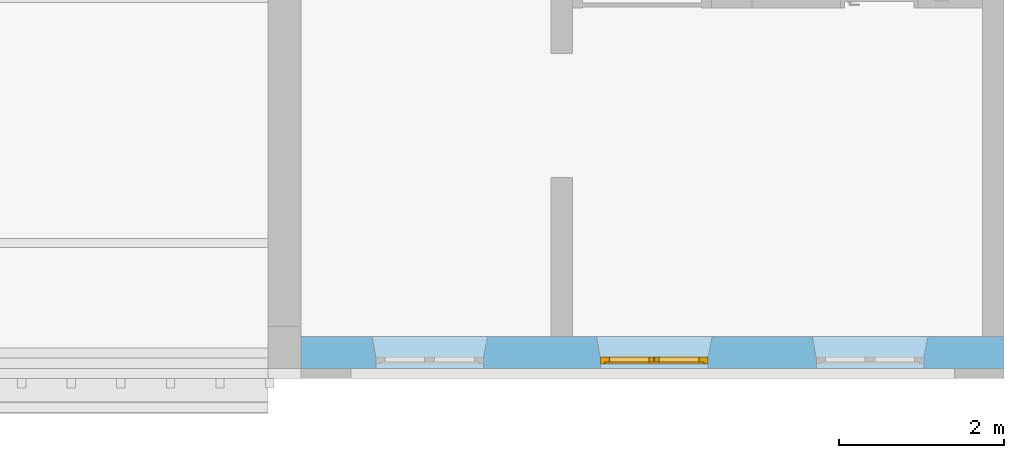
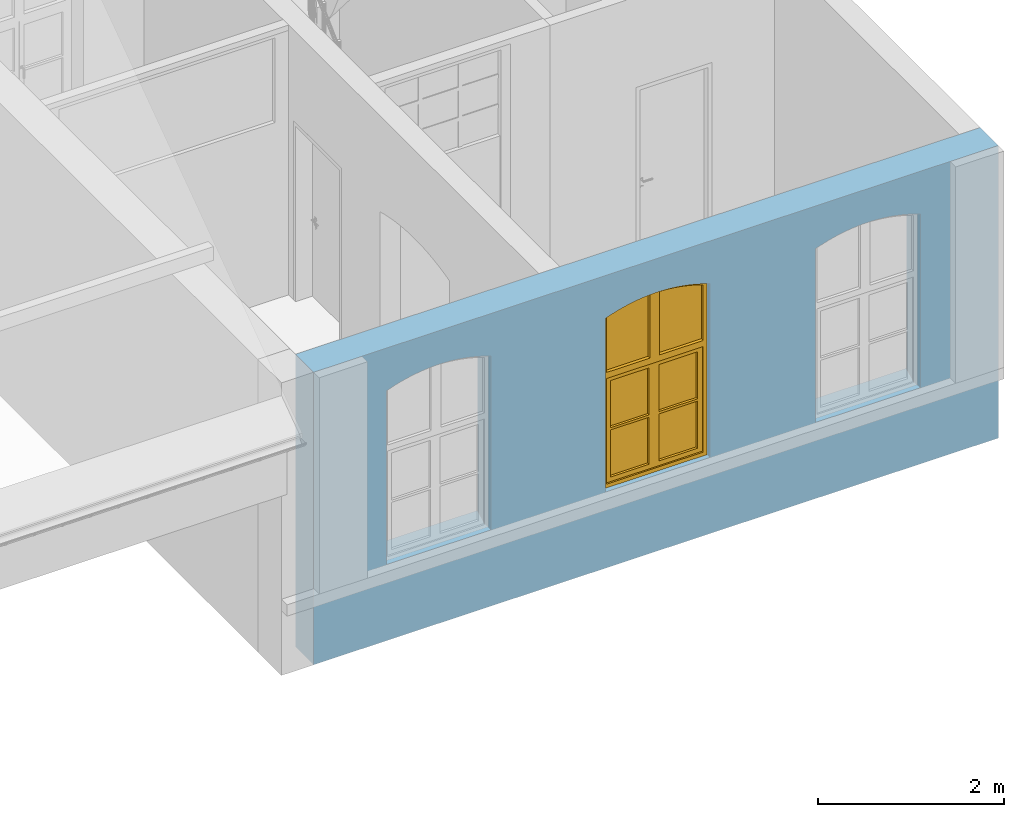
"""IFC4 building model written with IfcOpenShell, lengths in metres."""

import ifcopenshell
import ifcopenshell.guid

model = None  # the IFC model being written
_history = None  # IfcOwnerHistory: only IFC2X3 demands one
_inside = {}  # id of a spatial element -> (the spatial element, [elements in it])
_under = {}  # id of a project, library or spatial element -> (it, [spatial elements below it])
_declared = {}  # id of a project -> (the project, [libraries it declares])
_typed = {}  # id of a type object -> (the type object, [elements of that type])
_made_of = {}  # id of a material, layer set ... -> (it, [elements and type objects made of it])


def new_model(schema):
    """Start an empty IFC model of exactly this schema.

    Asked for "IFC4X3", IfcOpenShell would pick the latest addendum, in which some entities
    have other attributes; the version numbers below select the first issue.
    IFC2X3 requires an IfcOwnerHistory on every rooted entity: one is made here for all.
    """
    global model, _history
    if schema == "IFC4X3":
        model = ifcopenshell.file(schema_version=(4, 3, 0, 0))
    else:
        model = ifcopenshell.file(schema=schema)
    _inside.clear()
    _under.clear()
    _declared.clear()
    _typed.clear()
    _made_of.clear()
    _history = None
    if model.schema == "IFC2X3":
        org = make("IfcOrganization", Name="unknown")
        user = make(
            "IfcPersonAndOrganization",
            ThePerson=make("IfcPerson", FamilyName="unknown"),
            TheOrganization=org,
        )
        app = make(
            "IfcApplication",
            ApplicationDeveloper=org,
            Version="unknown",
            ApplicationFullName="unknown",
            ApplicationIdentifier="unknown",
        )
        _history = make(
            "IfcOwnerHistory",
            OwningUser=user,
            OwningApplication=app,
            ChangeAction="ADDED",
            CreationDate=0,
        )
    return model


def make(cls, **values):
    """One entity of the class cls with the attributes given. An attribute that is None is left unset."""
    return model.create_entity(
        cls, **{name: value for name, value in values.items() if value is not None}
    )


def entity(cls, *values):
    """Any entity or typed value of the class cls, its attributes in the order of the schema. None: left unset."""
    e = model.create_entity(cls)
    for i, value in enumerate(values):
        if value is not None:
            e[i] = value
    return e


def rooted(cls, **values):
    """An entity with a GlobalId (a new one), such as an element, a storey or a relation."""
    return make(cls, GlobalId=ifcopenshell.guid.new(), OwnerHistory=_history, **values)


def si_unit(unit_type, name, prefix=None):
    """IfcSIUnit, for example si_unit("LENGTHUNIT", "METRE", prefix="MILLI")."""
    return make("IfcSIUnit", UnitType=unit_type, Prefix=prefix, Name=name)


def converted_unit(unit_type, name, factor, base, dimensions=None, offset=None):
    """IfcConversionBasedUnit, such as the inch: factor (a typed value) times the base unit."""
    return make(
        "IfcConversionBasedUnit"
        if offset is None
        else "IfcConversionBasedUnitWithOffset",
        ConversionOffset=offset,
        Dimensions=None
        if dimensions is None
        else entity("IfcDimensionalExponents", *dimensions),
        UnitType=unit_type,
        Name=name,
        ConversionFactor=make(
            "IfcMeasureWithUnit", ValueComponent=factor, UnitComponent=base
        ),
    )


def derived_unit(unit_type, elements):
    """IfcDerivedUnit: a product of units, each with its exponent."""
    return make(
        "IfcDerivedUnit",
        Elements=[
            make("IfcDerivedUnitElement", Unit=unit, Exponent=power)
            for unit, power in elements
        ],
        UnitType=unit_type,
    )


def assignment(units):
    """IfcUnitAssignment: the units of a project."""
    return None if units is None else make("IfcUnitAssignment", Units=units)


def point(xyz):
    """IfcCartesianPoint."""
    return None if xyz is None else make("IfcCartesianPoint", Coordinates=xyz)


def direction(xyz):
    """IfcDirection."""
    return None if xyz is None else make("IfcDirection", DirectionRatios=xyz)


def frame(location, z_axis=None, x_axis=None):
    """IfcAxis2Placement3D, a coordinate frame: its origin and axes. An axis left out is left unset."""
    return make(
        "IfcAxis2Placement3D",
        Location=point(location),
        Axis=direction(z_axis),
        RefDirection=direction(x_axis),
    )


def frame_2d(location, x_axis=None):
    """IfcAxis2Placement2D, a coordinate frame in the plane: its origin and x axis."""
    return make(
        "IfcAxis2Placement2D", Location=point(location), RefDirection=direction(x_axis)
    )


def origin():
    """The frame at (0, 0, 0) with its axes left unset."""
    return frame((0.0, 0.0, 0.0))


def origin_with_axes():
    """The frame at (0, 0, 0) with the z axis (0, 0, 1) and the x axis (1, 0, 0) written out."""
    return frame((0.0, 0.0, 0.0), z_axis=(0.0, 0.0, 1.0), x_axis=(1.0, 0.0, 0.0))


def place(relative_to, where):
    """IfcLocalPlacement: puts the frame where relative to a parent placement (None: the world)."""
    return make(
        "IfcLocalPlacement", PlacementRelTo=relative_to, RelativePlacement=where
    )


def context(
    kind, dimensions, precision=None, world=None, true_north=None, identifier=None
):
    """IfcGeometricRepresentationContext, for example the 3D "Model" context."""
    return make(
        "IfcGeometricRepresentationContext",
        ContextIdentifier=identifier,
        ContextType=kind,
        CoordinateSpaceDimension=dimensions,
        Precision=precision,
        WorldCoordinateSystem=world,
        TrueNorth=true_north,
    )


def subcontext(parent, identifier, kind, view, scale=None):
    """IfcGeometricRepresentationSubContext, for example "Body" below "Model"."""
    return make(
        "IfcGeometricRepresentationSubContext",
        ContextIdentifier=identifier,
        ContextType=kind,
        ParentContext=parent,
        TargetScale=scale,
        TargetView=view,
    )


def project(units=None, contexts=None):
    """IfcProject with its units and contexts."""
    return rooted(
        "IfcProject",
        Name="project",
        RepresentationContexts=contexts,
        UnitsInContext=assignment(units),
    )


def spatial(cls, under=None, at=None, **own):
    """A site, building, storey or space (cls), placed at a placement, below another one or the project."""
    s = rooted(cls, ObjectPlacement=at, **own)
    if under is not None:
        _under.setdefault(under.id(), (under, []))[1].append(s)
    return s


def polyline(points):
    """IfcPolyline through the points."""
    return make("IfcPolyline", Points=[point(p) for p in points])


def profile(cls, at=None, kind="AREA", **sizes):
    """A parametric profile (cls). Its sizes go by their IFC names, for example OverallWidth=200.0."""
    return make(cls, ProfileType=kind, Position=at, **sizes)


def rectangle(**sizes):
    """IfcRectangleProfileDef."""
    return profile("IfcRectangleProfileDef", **sizes)


def outline(outer, holes=None, kind="AREA"):
    """IfcArbitraryClosedProfileDef: a profile drawn as a closed curve; with holes, ...WithVoids."""
    if holes is None:
        return make("IfcArbitraryClosedProfileDef", ProfileType=kind, OuterCurve=outer)
    return make(
        "IfcArbitraryProfileDefWithVoids",
        ProfileType=kind,
        OuterCurve=outer,
        InnerCurves=holes,
    )


def extrude(swept, where, along, depth):
    """IfcExtrudedAreaSolid: the profile swept, set in the frame where, extruded along a direction by depth."""
    return make(
        "IfcExtrudedAreaSolid",
        SweptArea=swept,
        Position=where,
        ExtrudedDirection=direction(along),
        Depth=depth,
    )


def faces_of(points, faces, orient=None, outer=None):
    """IfcFace entities. A face is a list of loops; a loop is a list of indices into points, from 0.

    orient and outer hold one flag for each loop. By default every Orientation is true, the
    first loop of a face is its IfcFaceOuterBound and the others are IfcFaceBound.
    """
    made = []
    for i, loops in enumerate(faces):
        bounds = []
        for j, loop in enumerate(loops):
            is_outer = j == 0 if outer is None else outer[i][j]
            bounds.append(
                make(
                    "IfcFaceOuterBound" if is_outer else "IfcFaceBound",
                    Bound=make("IfcPolyLoop", Polygon=[points[k] for k in loop]),
                    Orientation=True if orient is None else orient[i][j],
                )
            )
        made.append(make("IfcFace", Bounds=bounds))
    return made


def closed_shell(faces, orient=None, outer=None):
    """The faces of one IfcClosedShell. faceted_brep and surface_model build it on their shared points."""
    return ("IfcClosedShell", faces, orient, outer)


def open_shell(faces, orient=None, outer=None):
    """The faces of one IfcOpenShell. surface_model builds it on its shared points."""
    return ("IfcOpenShell", faces, orient, outer)


def surface_model(cls, points, shells):
    """IfcFaceBasedSurfaceModel or IfcShellBasedSurfaceModel (cls): surfaces that need not close."""
    shared = [point(p) for p in points]
    made = [make(c, CfsFaces=faces_of(shared, fs, o, b)) for c, fs, o, b in shells]
    if cls == "IfcFaceBasedSurfaceModel":
        return make(cls, FbsmFaces=made)
    return make(cls, SbsmBoundary=made)


def shape(context_of_items, identifier, shape_type, items):
    """IfcShapeRepresentation: the items that make up one representation, for example the "Body"."""
    return make(
        "IfcShapeRepresentation",
        ContextOfItems=context_of_items,
        RepresentationIdentifier=identifier,
        RepresentationType=shape_type,
        Items=items,
    )


def source(mapping_origin, context_of_items, identifier, shape_type, items):
    """IfcRepresentationMap: a shape defined once, which mapped items show again and again."""
    return make(
        "IfcRepresentationMap",
        MappingOrigin=mapping_origin,
        MappedRepresentation=shape(context_of_items, identifier, shape_type, items),
    )


def transform(
    local_origin,
    x_axis=None,
    y_axis=None,
    z_axis=None,
    scale=None,
    scale2=None,
    scale3=None,
    uniform=True,
):
    """IfcCartesianTransformationOperator3D, or its non-uniform kind. x_axis, y_axis, z_axis: its Axis1, 2, 3."""
    if uniform:
        return make(
            "IfcCartesianTransformationOperator3D",
            Axis1=direction(x_axis),
            Axis2=direction(y_axis),
            LocalOrigin=point(local_origin),
            Scale=scale,
            Axis3=direction(z_axis),
        )
    return make(
        "IfcCartesianTransformationOperator3DnonUniform",
        Axis1=direction(x_axis),
        Axis2=direction(y_axis),
        LocalOrigin=point(local_origin),
        Scale=scale,
        Axis3=direction(z_axis),
        Scale2=scale2,
        Scale3=scale3,
    )


def mapped(mapping_source, mapping_target):
    """IfcMappedItem: shows the shape of a source again, moved by a transform."""
    return make(
        "IfcMappedItem", MappingSource=mapping_source, MappingTarget=mapping_target
    )


def material(Name=None, Category=None):
    """IfcMaterial."""
    return make("IfcMaterial", Name=Name, Category=Category)


def layer(
    of_material, thickness, ventilated=None, Name=None, Category=None, Priority=None
):
    """IfcMaterialLayer: one layer of a wall or slab, of a material (None: an air gap)."""
    return make(
        "IfcMaterialLayer",
        Material=of_material,
        LayerThickness=thickness,
        IsVentilated=ventilated,
        Name=Name,
        Category=Category,
        Priority=Priority,
    )


def layer_set(layers, Name=None):
    """IfcMaterialLayerSet."""
    return make("IfcMaterialLayerSet", MaterialLayers=layers, LayerSetName=Name)


def layer_usage(for_layer_set, set_direction, sense, offset, extent=None):
    """IfcMaterialLayerSetUsage: how a layer set lies in its element."""
    return make(
        "IfcMaterialLayerSetUsage",
        ForLayerSet=for_layer_set,
        LayerSetDirection=set_direction,
        DirectionSense=sense,
        OffsetFromReferenceLine=offset,
        ReferenceExtent=extent,
    )


def made_of(thing, what):
    """Note that an element or type object is made of a material, layer set ...; save() writes the relation."""
    if what is not None:
        _made_of.setdefault(what.id(), (what, []))[1].append(thing)
    return thing


def element(
    cls,
    number,
    at=None,
    inside=None,
    cuts=None,
    type_object=None,
    material=None,
    context=None,
    identifier="Body",
    shape_type=None,
    held_by="IfcProductDefinitionShape",
    body=None,
    shapes=None,
    **own,
):
    """One element of the class cls, such as IfcWall. Its Tag is "e" and its number.

    at: its placement. inside: the storey or other place that contains it. cuts: it is an
    opening in that element (IfcRelVoidsElement). A single representation is given by context,
    identifier, shape_type and body (its items); several are given by shapes. held_by: the class
    of the entity that holds the representations. save() writes the other relations.
    """
    e = rooted(cls, Tag="e%d" % number, ObjectPlacement=at, **own)
    if body is not None:
        shapes = [shape(context, identifier, shape_type, body)]
    if shapes is not None:
        e.Representation = make(held_by, Representations=shapes)
    if inside is not None:
        _inside.setdefault(inside.id(), (inside, []))[1].append(e)
    if cuts is not None:
        rooted(
            "IfcRelVoidsElement", RelatingBuildingElement=cuts, RelatedOpeningElement=e
        )
    if type_object is not None:
        _typed.setdefault(type_object.id(), (type_object, []))[1].append(e)
    return made_of(e, material)


def fill(opening, filler):
    """IfcRelFillsElement: the door or window that sits in an opening."""
    return rooted(
        "IfcRelFillsElement",
        RelatingOpeningElement=opening,
        RelatedBuildingElement=filler,
    )


def aggregate(whole, parts):
    """IfcRelAggregates: a whole, such as a stair, and the parts it consists of."""
    return rooted("IfcRelAggregates", RelatingObject=whole, RelatedObjects=parts)


def save(model, path):
    """Write the relations noted so far, then the file.

    IfcRelAggregates (storeys below a building ...), IfcRelContainedInSpatialStructure (elements
    in a storey), IfcRelDefinesByType, IfcRelAssociatesMaterial and IfcRelDeclares: one each for
    every whole, place, type object, material and project.
    """
    for whole, parts in _under.values():
        aggregate(whole, parts)
    for where, things in _inside.values():
        rooted(
            "IfcRelContainedInSpatialStructure",
            RelatedElements=things,
            RelatingStructure=where,
        )
    for kind, things in _typed.values():
        rooted("IfcRelDefinesByType", RelatedObjects=things, RelatingType=kind)
    for what, things in _made_of.values():
        rooted("IfcRelAssociatesMaterial", RelatedObjects=things, RelatingMaterial=what)
    for by, libraries in _declared.values():
        rooted("IfcRelDeclares", RelatingContext=by, RelatedDefinitions=libraries)
    model.write(path)


model = new_model("IFC4")

# Units and contexts
model_context = context("Model", 3, precision=1e-05, world=origin())
body_context = subcontext(model_context, "Body", "Model", "MODEL_VIEW")
ifc_project = project(units=[si_unit("LENGTHUNIT", "METRE"), si_unit("AREAUNIT", "SQUARE_METRE"), si_unit("VOLUMEUNIT", "CUBIC_METRE"), si_unit("MASSUNIT", "GRAM", prefix="KILO"), converted_unit("PLANEANGLEUNIT", "DEGREE", entity("IfcPlaneAngleMeasure", 0.0174532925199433), si_unit("PLANEANGLEUNIT", "RADIAN"), dimensions=[0, 0, 0, 0, 0, 0, 0]), derived_unit("THERMALTRANSMITTANCEUNIT", [(si_unit("POWERUNIT", "WATT"), 1), (si_unit("THERMODYNAMICTEMPERATUREUNIT", "KELVIN"), -1), (si_unit("LENGTHUNIT", "METRE"), -2)]), derived_unit("VOLUMETRICFLOWRATEUNIT", [(si_unit("LENGTHUNIT", "METRE"), 3), (converted_unit("TIMEUNIT", "hour", entity("IfcTimeMeasure", 3600.0), si_unit("TIMEUNIT", "SECOND"), dimensions=[0, 0, 1, 0, 0, 0, 0]), -1), (si_unit("LENGTHUNIT", "METRE"), -1)])], contexts=[model_context])

# Building, storeys
building_placement = place(None, origin())
building = spatial("IfcBuilding", under=ifc_project, at=building_placement, Name="Bestandsgebäude A - Sporthalle / Wohnhaus (TB 100-499)   ANPASSEN !!!", CompositionType="ELEMENT")
storey_1_placement = place(building_placement, frame((0.0, 0.0, 3.87)))
storey_1 = spatial("IfcBuildingStorey", under=building, at=storey_1_placement, Name="Geb. A 1. Obergeschoss (TB 250-299)", CompositionType="ELEMENT", Elevation=3.87)
storey_2_placement = place(storey_1_placement, frame((0.0, 0.0, 3.87)))
storey_2 = spatial("IfcBuildingStorey", under=storey_1, at=storey_2_placement, Name="Architektur (TB 250-259)", CompositionType="PARTIAL")

# Wall, openings, window
ifc_material = material(Name="concrete")
ifc_layer = layer(ifc_material, 0.39)
ifc_layer_set = layer_set([ifc_layer])
ifc_layer_usage = layer_usage(ifc_layer_set, "AXIS2", "POSITIVE", 0.0)
wall_placement = place(storey_2_placement, frame((-8.5, 0.0, -4.27), z_axis=(0.0, 0.0, 1.0), x_axis=(1.0, -3.67027395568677e-16, 0.0)))
wall = element("IfcWall", 1, at=wall_placement, inside=storey_2, material=ifc_layer_usage, Name="reinforced - bearing", PredefinedType="USERDEFINED", context=body_context, shape_type="SweptSolid", body=[
    extrude(rectangle(XDim=8.5, YDim=0.39, at=frame_2d((4.25, 0.195), x_axis=(1.0, 0.0))), origin_with_axes(), (0.0, 0.0, 1.0), 3.84),
])
opening_1_placement = place(wall_placement, frame((7.58213541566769, 0.39, 1.0), z_axis=(0.0, 0.0, 1.0), x_axis=(-1.0, 0.0, 0.0)))
element("IfcOpeningElement", 2, at=opening_1_placement, cuts=wall, Name="Wall Niche", ObjectType="Opening", context=body_context, shape_type="SweptSolid", body=[
    extrude(outline(polyline([(0.0, 0.0), (1.4, 0.0), (1.3549652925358, 0.25), (0.0521354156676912, 0.25), (0.0, 0.0)])), origin_with_axes(), (0.0, 0.0, 1.0), 2.4),
])
opening_2_placement = place(wall_placement, frame((4.97156563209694, 0.39, 1.0), z_axis=(0.0, 0.0, 1.0), x_axis=(-1.0, 0.0, 0.0)))
element("IfcOpeningElement", 3, at=opening_2_placement, cuts=wall, Name="Wall Niche", ObjectType="Opening", context=body_context, shape_type="SweptSolid", body=[
    extrude(outline(polyline([(0.0, 0.0), (1.4, 0.0), (1.3549652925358, 0.25), (0.0515656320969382, 0.25), (0.0, 0.0)])), origin_with_axes(), (0.0, 0.0, 1.0), 2.4),
])
opening_3_placement = place(wall_placement, frame((2.25788092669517, 0.39, 1.0), z_axis=(0.0, 0.0, 1.0), x_axis=(-1.0, 0.0, 0.0)))
element("IfcOpeningElement", 4, at=opening_3_placement, cuts=wall, Name="Wall Niche", ObjectType="Opening", context=body_context, shape_type="SweptSolid", body=[
    extrude(outline(polyline([(0.0, 0.0), (1.4, 0.0), (1.35423986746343, 0.25), (0.0542398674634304, 0.25), (0.0, 0.0)])), origin_with_axes(), (0.0, 0.0, 1.0), 2.4),
])
opening_4_placement = place(wall_placement, frame((0.903641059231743, 0.0, 1.0), z_axis=(-2.91504712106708e-16, 1.0, 0.0), x_axis=(0.0, 0.0, 1.0)))
element("IfcOpeningElement", 5, at=opening_4_placement, cuts=wall, Name="Window opening", PredefinedType="OPENING", context=body_context, shape_type="SweptSolid", body=[
    extrude(outline(polyline([(2.28, 1.3), (2.29531656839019, 1.25842115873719), (2.30961661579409, 1.21648184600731), (2.3228916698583, 1.17420690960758), (2.33513386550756, 1.1316213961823), (2.34633594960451, 1.08875053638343), (2.35649128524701, 1.04561972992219), (2.36559385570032, 1.00225453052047), (2.37363826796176, 0.958680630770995), (2.38061975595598, 0.914923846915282), (2.38653418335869, 0.871010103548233), (2.39137804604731, 0.826965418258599), (2.39514847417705, 0.782815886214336), (2.39784323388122, 0.738587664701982), (2.39946072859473, 0.694306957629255), (2.4, 0.650000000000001), (2.39946072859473, 0.605693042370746), (2.39784323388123, 0.561412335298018), (2.39514847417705, 0.517184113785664), (2.39137804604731, 0.4730345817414), (2.38653418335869, 0.428989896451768), (2.38061975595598, 0.385076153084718), (2.37363826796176, 0.341319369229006), (2.36559385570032, 0.297745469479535), (2.35649128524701, 0.254380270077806), (2.3463359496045, 0.211249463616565), (2.33513386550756, 0.1683786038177), (2.3228916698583, 0.125793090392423), (2.30961661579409, 0.0835181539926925), (2.29531656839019, 0.0415788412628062), (2.28, 0.0), (0.0, 0.0), (0.0, 1.3), (2.28, 1.3)])), origin_with_axes(), (0.0, 0.0, 1.0), 0.39),
])
opening_5_placement = place(wall_placement, frame((3.62, 0.0, 1.0), z_axis=(0.0, 1.0, 0.0), x_axis=(0.0, 0.0, 1.0)))
opening_5 = element("IfcOpeningElement", 6, at=opening_5_placement, cuts=wall, Name="Window opening", PredefinedType="OPENING", context=body_context, shape_type="SweptSolid", body=[
    extrude(outline(polyline([(2.28, 1.3), (2.29531656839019, 1.25842115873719), (2.30961661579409, 1.21648184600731), (2.3228916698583, 1.17420690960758), (2.33513386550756, 1.1316213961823), (2.3463359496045, 1.08875053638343), (2.35649128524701, 1.04561972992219), (2.36559385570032, 1.00225453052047), (2.37363826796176, 0.958680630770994), (2.38061975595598, 0.914923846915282), (2.38653418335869, 0.871010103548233), (2.39137804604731, 0.826965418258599), (2.39514847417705, 0.782815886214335), (2.39784323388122, 0.738587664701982), (2.39946072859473, 0.694306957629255), (2.4, 0.65), (2.39946072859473, 0.605693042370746), (2.39784323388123, 0.561412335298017), (2.39514847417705, 0.517184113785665), (2.39137804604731, 0.4730345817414), (2.38653418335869, 0.428989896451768), (2.38061975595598, 0.385076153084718), (2.37363826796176, 0.341319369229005), (2.36559385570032, 0.297745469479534), (2.35649128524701, 0.254380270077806), (2.3463359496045, 0.211249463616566), (2.33513386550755, 0.1683786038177), (2.3228916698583, 0.125793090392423), (2.30961661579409, 0.0835181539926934), (2.29531656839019, 0.0415788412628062), (2.28, 0.0), (0.0, 0.0), (0.0, 1.3), (2.28, 1.3)])), origin_with_axes(), (0.0, 0.0, 1.0), 0.39),
])
opening_6_placement = place(wall_placement, frame((6.23, 0.0, 1.0), z_axis=(0.0, 1.0, 0.0), x_axis=(0.0, 0.0, 1.0)))
element("IfcOpeningElement", 7, at=opening_6_placement, cuts=wall, Name="Window opening", PredefinedType="OPENING", context=body_context, shape_type="SweptSolid", body=[
    extrude(outline(polyline([(2.28, 1.3), (2.29531656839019, 1.25842115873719), (2.30961661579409, 1.21648184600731), (2.3228916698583, 1.17420690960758), (2.33513386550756, 1.1316213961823), (2.3463359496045, 1.08875053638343), (2.35649128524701, 1.04561972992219), (2.36559385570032, 1.00225453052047), (2.37363826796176, 0.958680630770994), (2.38061975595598, 0.914923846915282), (2.38653418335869, 0.871010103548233), (2.39137804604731, 0.826965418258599), (2.39514847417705, 0.782815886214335), (2.39784323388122, 0.738587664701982), (2.39946072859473, 0.694306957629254), (2.4, 0.65), (2.39946072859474, 0.605693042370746), (2.39784323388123, 0.561412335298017), (2.39514847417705, 0.517184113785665), (2.39137804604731, 0.4730345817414), (2.38653418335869, 0.428989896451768), (2.38061975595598, 0.385076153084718), (2.37363826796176, 0.341319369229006), (2.36559385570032, 0.297745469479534), (2.35649128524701, 0.254380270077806), (2.3463359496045, 0.211249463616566), (2.33513386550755, 0.168378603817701), (2.3228916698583, 0.125793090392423), (2.30961661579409, 0.083518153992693), (2.29531656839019, 0.0415788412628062), (2.28, 0.0), (0.0, 0.0), (0.0, 1.3), (2.28, 1.3)])), origin_with_axes(), (0.0, 0.0, 1.0), 0.39),
])
shared_shape = source(origin_with_axes(), body_context, "Body", "SurfaceModel", [
    surface_model("IfcShellBasedSurfaceModel", [(1.258421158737, 0.0, 2.29531656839), (1.3, 0.0, 2.28), (1.3, 0.0, 0.0), (0.0, 0.0, 0.0), (0.0, 0.0, 2.28), (0.041578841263, 0.0, 2.29531656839), (0.0835181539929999, 0.0, 2.309616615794), (0.125793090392, 0.0, 2.322891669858), (0.168378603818, 0.0, 2.335133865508), (0.211249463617, 0.0, 2.346335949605), (0.254380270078, 0.0, 2.356491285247), (0.29774546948, 0.0, 2.3655938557), (0.341319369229, 0.0, 2.373638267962), (0.385076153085, 0.0, 2.380619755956), (0.428989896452, 0.0, 2.386534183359), (0.473034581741, 0.0, 2.391378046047), (0.517184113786, 0.0, 2.395148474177), (0.561412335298, 0.0, 2.397843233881), (0.605693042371, 0.0, 2.399460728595), (0.65, 0.0, 2.4), (0.694306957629, 0.0, 2.399460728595), (0.738587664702, 0.0, 2.397843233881), (0.782815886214, 0.0, 2.395148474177), (0.826965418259, 0.0, 2.391378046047), (0.871010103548, 0.0, 2.386534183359), (0.914923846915, 0.0, 2.380619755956), (0.958680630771, 0.0, 2.373638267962), (1.00225453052, 0.0, 2.3655938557), (1.045619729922, 0.0, 2.356491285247), (1.088750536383, 0.0, 2.346335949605), (1.131621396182, 0.0, 2.335133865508), (1.174206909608, 0.0, 2.322891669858), (1.216481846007, 0.0, 2.309616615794), (1.25, 0.0, 2.2451341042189), (1.2417088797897, 0.0, 2.2481883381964), (1.20092156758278, 0.0, 2.26209558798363), (1.15980785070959, 0.0, 2.27500599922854), (1.11839208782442, 0.0, 2.28691192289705), (1.07669881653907, 0.0, 2.2978063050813), (1.03475273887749, 0.0, 2.30768269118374), (0.992578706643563, 0.0, 2.31653522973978), (0.950201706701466, 0.0, 2.32435867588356), (0.907646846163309, 0.0, 2.33114839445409), (0.864939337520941, 0.0, 2.33690036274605), (0.822104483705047, 0.0, 2.34161117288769), (0.779167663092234, 0.0, 2.34527803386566), (0.736154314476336, 0.0, 2.34789877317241), (0.693089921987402, 0.0, 2.3494718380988), (0.65, 0.0, 2.34999629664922), (0.606910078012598, 0.0, 2.3494718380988), (0.563845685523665, 0.0, 2.34789877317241), (0.520832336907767, 0.0, 2.34527803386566), (0.477895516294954, 0.0, 2.34161117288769), (0.435060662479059, 0.0, 2.33690036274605), (0.392353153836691, 0.0, 2.33114839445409), (0.349798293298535, 0.0, 2.32435867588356), (0.307421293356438, 0.0, 2.31653522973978), (0.265247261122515, 0.0, 2.30768269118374), (0.223301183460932, 0.0, 2.2978063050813), (0.181607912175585, 0.0, 2.28691192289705), (0.140192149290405, 0.0, 2.27500599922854), (0.0990784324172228, 0.0, 2.26209558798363), (0.0582911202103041, 0.0, 2.2481883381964), (0.05, 0.0, 2.2451341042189), (0.05, 0.0, 0.05), (1.25, 0.0, 0.05), (1.3, 0.0799999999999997, 2.28), (1.258421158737, 0.0799999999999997, 2.29531656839), (1.216481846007, 0.0799999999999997, 2.309616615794), (1.174206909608, 0.0799999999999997, 2.322891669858), (1.131621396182, 0.0799999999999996, 2.335133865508), (1.088750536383, 0.0799999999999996, 2.346335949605), (1.045619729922, 0.0799999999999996, 2.356491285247), (1.00225453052, 0.0799999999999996, 2.3655938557), (0.958680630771, 0.0799999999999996, 2.373638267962), (0.914923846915, 0.0799999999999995, 2.380619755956), (0.871010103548, 0.0799999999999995, 2.386534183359), (0.826965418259, 0.0799999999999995, 2.391378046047), (0.782815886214, 0.0799999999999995, 2.395148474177), (0.738587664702, 0.0799999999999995, 2.397843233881), (0.694306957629, 0.0799999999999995, 2.399460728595), (0.65, 0.0799999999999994, 2.4), (0.605693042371, 0.0799999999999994, 2.399460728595), (0.561412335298, 0.0799999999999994, 2.397843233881), (0.517184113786, 0.0799999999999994, 2.395148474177), (0.473034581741, 0.0799999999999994, 2.391378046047), (0.428989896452, 0.0799999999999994, 2.386534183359), (0.385076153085, 0.0799999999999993, 2.380619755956), (0.341319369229, 0.0799999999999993, 2.373638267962), (0.29774546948, 0.0799999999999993, 2.3655938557), (0.254380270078, 0.0799999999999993, 2.356491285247), (0.211249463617, 0.0799999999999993, 2.346335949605), (0.168378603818, 0.0799999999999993, 2.335133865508), (0.125793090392, 0.0799999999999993, 2.322891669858), (0.0835181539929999, 0.0799999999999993, 2.309616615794), (0.041578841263, 0.0799999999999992, 2.29531656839), (0.0, 0.0799999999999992, 2.28), (0.0, 0.0799999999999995, 0.0), (1.3, 0.08, 0.0), (1.2417088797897, 0.0799999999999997, 2.2481883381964), (1.25, 0.0799999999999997, 2.2451341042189), (1.25, 0.08, 0.05), (0.05, 0.0799999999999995, 0.05), (0.05, 0.0799999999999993, 2.2451341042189), (0.0582911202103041, 0.0799999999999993, 2.2481883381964), (0.0990784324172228, 0.0799999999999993, 2.26209558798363), (0.140192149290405, 0.0799999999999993, 2.27500599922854), (0.181607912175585, 0.0799999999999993, 2.28691192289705), (0.223301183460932, 0.0799999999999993, 2.2978063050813), (0.265247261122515, 0.0799999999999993, 2.30768269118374), (0.307421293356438, 0.0799999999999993, 2.31653522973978), (0.349798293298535, 0.0799999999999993, 2.32435867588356), (0.392353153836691, 0.0799999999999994, 2.33114839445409), (0.435060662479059, 0.0799999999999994, 2.33690036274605), (0.477895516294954, 0.0799999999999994, 2.34161117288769), (0.520832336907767, 0.0799999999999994, 2.34527803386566), (0.563845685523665, 0.0799999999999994, 2.34789877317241), (0.606910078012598, 0.0799999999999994, 2.3494718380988), (0.65, 0.0799999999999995, 2.34999629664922), (0.693089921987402, 0.0799999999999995, 2.3494718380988), (0.736154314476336, 0.0799999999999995, 2.34789877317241), (0.779167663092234, 0.0799999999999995, 2.34527803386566), (0.822104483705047, 0.0799999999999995, 2.34161117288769), (0.864939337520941, 0.0799999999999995, 2.33690036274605), (0.907646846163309, 0.0799999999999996, 2.33114839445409), (0.950201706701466, 0.0799999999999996, 2.32435867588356), (0.992578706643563, 0.0799999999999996, 2.31653522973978), (1.03475273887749, 0.0799999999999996, 2.30768269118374), (1.07669881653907, 0.0799999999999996, 2.2978063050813), (1.11839208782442, 0.0799999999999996, 2.28691192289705), (1.15980785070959, 0.0799999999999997, 2.27500599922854), (1.20092156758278, 0.0799999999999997, 2.26209558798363)], [closed_shell([[[0, 1, 2, 3, 4, 5, 6, 7, 8, 9, 10, 11, 12, 13, 14, 15, 16, 17, 18, 19, 20, 21, 22, 23, 24, 25, 26, 27, 28, 29, 30, 31, 32], [33, 34, 35, 36, 37, 38, 39, 40, 41, 42, 43, 44, 45, 46, 47, 48, 49, 50, 51, 52, 53, 54, 55, 56, 57, 58, 59, 60, 61, 62, 63, 64, 65]], [[66, 67, 68, 69, 70, 71, 72, 73, 74, 75, 76, 77, 78, 79, 80, 81, 82, 83, 84, 85, 86, 87, 88, 89, 90, 91, 92, 93, 94, 95, 96, 97, 98], [99, 100, 101, 102, 103, 104, 105, 106, 107, 108, 109, 110, 111, 112, 113, 114, 115, 116, 117, 118, 119, 120, 121, 122, 123, 124, 125, 126, 127, 128, 129, 130, 131]], [[1, 0, 67, 66]], [[2, 1, 66, 98]], [[3, 2, 98, 97]], [[4, 3, 97, 96]], [[5, 4, 96, 95]], [[6, 5, 95, 94]], [[7, 6, 94, 93]], [[8, 7, 93, 92]], [[9, 8, 92, 91]], [[10, 9, 91, 90]], [[11, 10, 90, 89]], [[12, 11, 89, 88]], [[13, 12, 88, 87]], [[14, 13, 87, 86]], [[15, 14, 86, 85]], [[16, 15, 85, 84]], [[17, 16, 84, 83]], [[18, 17, 83, 82]], [[19, 18, 82, 81]], [[20, 19, 81, 80]], [[21, 20, 80, 79]], [[22, 21, 79, 78]], [[23, 22, 78, 77]], [[24, 23, 77, 76]], [[25, 24, 76, 75]], [[26, 25, 75, 74]], [[27, 26, 74, 73]], [[28, 27, 73, 72]], [[29, 28, 72, 71]], [[30, 29, 71, 70]], [[31, 30, 70, 69]], [[32, 31, 69, 68]], [[0, 32, 68, 67]], [[33, 100, 99, 34]], [[65, 101, 100, 33]], [[64, 102, 101, 65]], [[63, 103, 102, 64]], [[62, 104, 103, 63]], [[61, 105, 104, 62]], [[60, 106, 105, 61]], [[59, 107, 106, 60]], [[58, 108, 107, 59]], [[57, 109, 108, 58]], [[56, 110, 109, 57]], [[55, 111, 110, 56]], [[54, 112, 111, 55]], [[53, 113, 112, 54]], [[52, 114, 113, 53]], [[51, 115, 114, 52]], [[50, 116, 115, 51]], [[49, 117, 116, 50]], [[48, 118, 117, 49]], [[47, 119, 118, 48]], [[46, 120, 119, 47]], [[45, 121, 120, 46]], [[44, 122, 121, 45]], [[43, 123, 122, 44]], [[42, 124, 123, 43]], [[41, 125, 124, 42]], [[40, 126, 125, 41]], [[39, 127, 126, 40]], [[38, 128, 127, 39]], [[37, 129, 128, 38]], [[36, 130, 129, 37]], [[35, 131, 130, 36]], [[34, 99, 131, 35]]], orient=[[False, False], [False, False], [False], [False], [False], [False], [False], [False], [False], [False], [False], [False], [False], [False], [False], [False], [False], [False], [False], [False], [False], [False], [False], [False], [False], [False], [False], [False], [False], [False], [False], [False], [False], [False], [False], [False], [False], [False], [False], [False], [False], [False], [False], [False], [False], [False], [False], [False], [False], [False], [False], [False], [False], [False], [False], [False], [False], [False], [False], [False], [False], [False], [False], [False], [False], [False], [False], [False]])]),
    surface_model("IfcShellBasedSurfaceModel", [(1.25, 0.0, 1.5156198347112), (1.25, 0.0, 1.4356198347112), (0.05, 0.0, 1.4356198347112), (0.05, 0.0, 1.5156198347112), (1.25, 0.0799999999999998, 1.4356198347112), (1.25, 0.0799999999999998, 1.5156198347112), (0.05, 0.0799999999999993, 1.5156198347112), (0.05, 0.0799999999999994, 1.4356198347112)], [closed_shell([[[0, 1, 2, 3]], [[4, 5, 6, 7]], [[1, 0, 5, 4]], [[2, 1, 4, 7]], [[3, 2, 7, 6]], [[0, 3, 6, 5]]], orient=[[False], [False], [False], [False], [False], [False]])]),
    surface_model("IfcShellBasedSurfaceModel", [(0.71, 0.0, 2.34885414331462), (0.71, 0.0, 1.5156198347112), (0.59, 0.0, 1.5156198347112), (0.59, 0.0, 2.34885414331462), (0.606910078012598, 0.0, 2.3494718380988), (0.65, 0.0, 2.34999629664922), (0.693089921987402, 0.0, 2.3494718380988), (0.71, 0.0799999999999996, 1.5156198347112), (0.71, 0.0799999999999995, 2.34885414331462), (0.693089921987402, 0.0799999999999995, 2.3494718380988), (0.65, 0.0799999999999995, 2.34999629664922), (0.606910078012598, 0.0799999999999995, 2.3494718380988), (0.59, 0.0799999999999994, 2.34885414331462), (0.59, 0.0799999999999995, 1.5156198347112)], [closed_shell([[[0, 1, 2, 3, 4, 5, 6]], [[7, 8, 9, 10, 11, 12, 13]], [[1, 0, 8, 7]], [[2, 1, 7, 13]], [[3, 2, 13, 12]], [[4, 3, 12, 11]], [[5, 4, 11, 10]], [[6, 5, 10, 9]], [[0, 6, 9, 8]]], orient=[[False], [False], [False], [False], [False], [False], [False], [False], [False]])]),
    surface_model("IfcShellBasedSurfaceModel", [(0.6505, 0.0, 0.05), (0.6505, 0.0, 1.4356198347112), (1.25, 0.0, 1.4356198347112), (1.25, 0.0, 0.05), (0.7105, 0.0, 1.3756198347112), (0.7105, 0.0, 0.11), (1.19, 0.0, 0.11), (1.19, 0.0, 1.3756198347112), (0.6505, 0.0599999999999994, 1.4356198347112), (0.6505, 0.0599999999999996, 0.05), (1.25, 0.0599999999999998, 0.05), (1.25, 0.0599999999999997, 1.4356198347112), (0.7105, 0.0599999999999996, 0.11), (0.7105, 0.0599999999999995, 1.3756198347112), (1.19, 0.0599999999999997, 1.3756198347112), (1.19, 0.0599999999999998, 0.11)], [closed_shell([[[0, 1, 2, 3], [4, 5, 6, 7]], [[8, 9, 10, 11], [12, 13, 14, 15]], [[1, 0, 9, 8]], [[2, 1, 8, 11]], [[3, 2, 11, 10]], [[0, 3, 10, 9]], [[4, 13, 12, 5]], [[7, 14, 13, 4]], [[6, 15, 14, 7]], [[5, 12, 15, 6]]], orient=[[False, False], [False, False], [False], [False], [False], [False], [False], [False], [False], [False]])]),
    surface_model("IfcShellBasedSurfaceModel", [(0.6495, 0.0, 1.4356198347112), (0.6495, 0.0, 0.05), (0.05, 0.0, 0.05), (0.05, 0.0, 1.4356198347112), (0.5895, 0.0, 0.11), (0.5895, 0.0, 1.3756198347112), (0.11, 0.0, 1.3756198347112), (0.11, 0.0, 0.11), (0.6495, 0.0599999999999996, 0.05), (0.6495, 0.0599999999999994, 1.4356198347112), (0.05, 0.0599999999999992, 1.4356198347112), (0.05, 0.0599999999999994, 0.05), (0.5895, 0.0599999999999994, 1.3756198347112), (0.5895, 0.0599999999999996, 0.11), (0.11, 0.0599999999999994, 0.11), (0.11, 0.0599999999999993, 1.3756198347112)], [closed_shell([[[0, 1, 2, 3], [4, 5, 6, 7]], [[8, 9, 10, 11], [12, 13, 14, 15]], [[1, 0, 9, 8]], [[2, 1, 8, 11]], [[3, 2, 11, 10]], [[0, 3, 10, 9]], [[4, 13, 12, 5]], [[7, 14, 13, 4]], [[6, 15, 14, 7]], [[5, 12, 15, 6]]], orient=[[False, False], [False, False], [False], [False], [False], [False], [False], [False], [False], [False]])]),
    surface_model("IfcShellBasedSurfaceModel", [(0.5895, 0.0, 0.7578099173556), (0.5895, 0.0, 0.7278099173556), (0.11, 0.0, 0.7278099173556), (0.11, 0.0, 0.7578099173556), (0.5895, 0.0599999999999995, 0.7278099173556), (0.5895, 0.0599999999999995, 0.7578099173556), (0.11, 0.0599999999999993, 0.7578099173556), (0.11, 0.0599999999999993, 0.7278099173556)], [closed_shell([[[0, 1, 2, 3]], [[4, 5, 6, 7]], [[1, 0, 5, 4]], [[2, 1, 4, 7]], [[3, 2, 7, 6]], [[0, 3, 6, 5]]], orient=[[False], [False], [False], [False], [False], [False]])]),
    surface_model("IfcShellBasedSurfaceModel", [(1.2417088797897, 0.0399999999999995, 2.2481883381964), (1.25, 0.0399999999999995, 2.2451341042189), (1.25, 0.0399999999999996, 1.5156198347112), (0.71, 0.0399999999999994, 1.5156198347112), (0.71, 0.0399999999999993, 2.34885414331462), (0.736154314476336, 0.0399999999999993, 2.34789877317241), (0.779167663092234, 0.0399999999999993, 2.34527803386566), (0.822104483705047, 0.0399999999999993, 2.34161117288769), (0.864939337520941, 0.0399999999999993, 2.33690036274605), (0.907646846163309, 0.0399999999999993, 2.33114839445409), (0.950201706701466, 0.0399999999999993, 2.32435867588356), (0.992578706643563, 0.0399999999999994, 2.31653522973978), (1.03475273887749, 0.0399999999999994, 2.30768269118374), (1.07669881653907, 0.0399999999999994, 2.2978063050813), (1.11839208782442, 0.0399999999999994, 2.28691192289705), (1.15980785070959, 0.0399999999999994, 2.27500599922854), (1.20092156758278, 0.0399999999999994, 2.26209558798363)], [open_shell([[[0, 1, 2, 3, 4, 5, 6, 7, 8, 9, 10, 11, 12, 13, 14, 15, 16]]], orient=[[False]])]),
    surface_model("IfcShellBasedSurfaceModel", [(0.563845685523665, 0.0399999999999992, 2.34789877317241), (0.59, 0.0399999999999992, 2.34885414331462), (0.59, 0.0399999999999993, 1.5156198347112), (0.05, 0.0399999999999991, 1.5156198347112), (0.05, 0.039999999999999, 2.2451341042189), (0.0582911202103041, 0.039999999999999, 2.2481883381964), (0.0990784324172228, 0.0399999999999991, 2.26209558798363), (0.140192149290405, 0.0399999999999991, 2.27500599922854), (0.181607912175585, 0.0399999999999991, 2.28691192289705), (0.223301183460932, 0.0399999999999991, 2.2978063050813), (0.265247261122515, 0.0399999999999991, 2.30768269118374), (0.307421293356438, 0.0399999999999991, 2.31653522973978), (0.349798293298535, 0.0399999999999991, 2.32435867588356), (0.392353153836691, 0.0399999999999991, 2.33114839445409), (0.435060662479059, 0.0399999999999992, 2.33690036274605), (0.477895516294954, 0.0399999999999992, 2.34161117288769), (0.520832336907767, 0.0399999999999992, 2.34527803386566)], [open_shell([[[0, 1, 2, 3, 4, 5, 6, 7, 8, 9, 10, 11, 12, 13, 14, 15, 16]]], orient=[[False]])]),
    surface_model("IfcShellBasedSurfaceModel", [(0.5895, 0.0299999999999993, 0.7278099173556), (0.5895, 0.0299999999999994, 0.11), (0.11, 0.0299999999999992, 0.11), (0.11, 0.0299999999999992, 0.7278099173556)], [open_shell([[[0, 1, 2, 3]]], orient=[[False]])]),
    surface_model("IfcShellBasedSurfaceModel", [(0.11, 0.0299999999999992, 0.7578099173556), (0.11, 0.0299999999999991, 1.3756198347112), (0.5895, 0.0299999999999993, 1.3756198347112), (0.5895, 0.0299999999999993, 0.7578099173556)], [open_shell([[[0, 1, 2, 3]]], orient=[[False]])]),
    surface_model("IfcShellBasedSurfaceModel", [(1.19, 0.0, 0.7578099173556), (1.19, 0.0, 0.7278099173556), (0.7105, 0.0, 0.7278099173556), (0.7105, 0.0, 0.7578099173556), (1.19, 0.0599999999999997, 0.7278099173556), (1.19, 0.0599999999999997, 0.7578099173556), (0.7105, 0.0599999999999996, 0.7578099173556), (0.7105, 0.0599999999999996, 0.7278099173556)], [closed_shell([[[0, 1, 2, 3]], [[4, 5, 6, 7]], [[1, 0, 5, 4]], [[2, 1, 4, 7]], [[3, 2, 7, 6]], [[0, 3, 6, 5]]], orient=[[False], [False], [False], [False], [False], [False]])]),
    surface_model("IfcShellBasedSurfaceModel", [(1.19, 0.0299999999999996, 0.7278099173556), (1.19, 0.0299999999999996, 0.11), (0.7105, 0.0299999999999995, 0.11), (0.7105, 0.0299999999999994, 0.7278099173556)], [open_shell([[[0, 1, 2, 3]]], orient=[[False]])]),
    surface_model("IfcShellBasedSurfaceModel", [(0.7105, 0.0299999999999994, 0.7578099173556), (0.7105, 0.0299999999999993, 1.3756198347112), (1.19, 0.0299999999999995, 1.3756198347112), (1.19, 0.0299999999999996, 0.7578099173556)], [open_shell([[[0, 1, 2, 3]]], orient=[[False]])]),
    surface_model("IfcShellBasedSurfaceModel", [(0.11, 0.0299999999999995, 0.11), (0.5895, 0.0299999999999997, 0.7428099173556), (0.11, 0.0299999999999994, 1.3756198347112)], [open_shell([[[0, 1, 2]]], orient=[[False]])]),
])
window_placement = place(opening_5_placement, frame((0.0, 1.3, 0.14), z_axis=(1.0, 0.0, 0.0), x_axis=(0.0, -1.0, 0.0)))
window = element("IfcWindow", 8, at=window_placement, inside=storey_2, Name="Window", OverallHeight=2.4, OverallWidth=1.3, PartitioningType="USERDEFINED", PredefinedType="WINDOW", context=body_context, shape_type="MappedRepresentation", body=[
    mapped(shared_shape, transform((0.0, 0.0, 0.0), x_axis=(1.0, 0.0, 0.0), y_axis=(0.0, 1.0, 0.0), z_axis=(0.0, 0.0, 1.0), scale=1.0)),
])
fill(opening_5, window)

save(model, "model.ifc")
